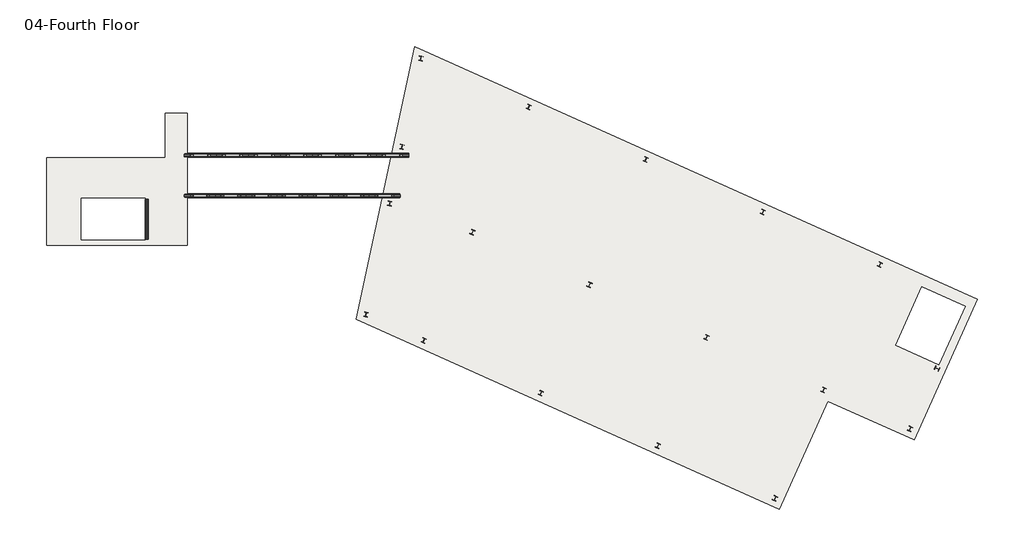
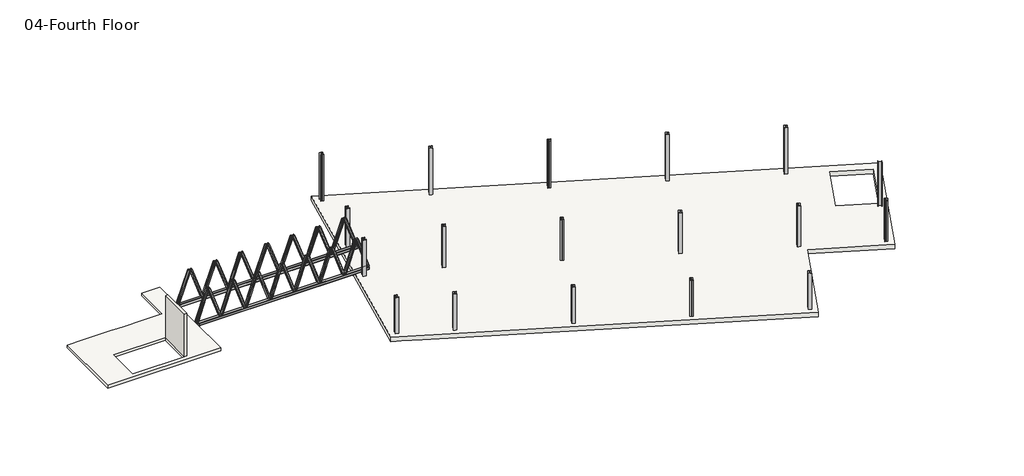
# One storey: 30 beams, 18 columns, 2 slabs, 1 wall.
"""IFC4 building model written with IfcOpenShell, lengths in millimetres."""

from ifc_helpers import new_model, si_unit, frame, origin, place, context, project, spatial, polyline, outline, extrude, faceted_brep, transform, mapped, element, save
from components import hss_square_hss6x6x1_2_76161288, hss_square_hss6x6x1_2_22740da5, hss_square_hss6x6x1_2_1b88db30, hss_square_hss6x6x1_2_b0b0a80a, hss_square_hss6x6x1_2_a7cad767, hss_square_hss6x6x1_2_71d29ca0, hss_square_hss8x8x3_8_a07c3f43, hss_square_hss8x8x3_8_c1e108ad, w_shapes_column_w10x33_a9fcfa0c, w_shapes_column_w10x33_dd564183, w_shapes_column_w10x33_143f3a9e, w_shapes_column_w10x33_68d9858e, w_shapes_column_w10x33_19826069, w_shapes_column_w10x33_0502d7ff, w_shapes_column_w10x33_47bedb91, w_shapes_column_w10x33_6cbc947e

model = new_model("IFC4")

# Units and contexts
model_context = context("Model", 3, world=origin())
ifc_project = project(units=[si_unit("LENGTHUNIT", "METRE", prefix="MILLI")], contexts=[model_context])

# Site, building, storey
site = spatial("IfcSite", under=ifc_project)
building = spatial("IfcBuilding", under=site)
storey = spatial("IfcBuildingStorey", under=building, Name="04-Fourth Floor", Elevation=13411.2)

# Beams
placement = place(None, origin())
hss_square_hss6x6x1_2_shape = hss_square_hss6x6x1_2_76161288(model_context)
element("IfcBeam", 1, ObjectType="HSS Square : HSS6X6X1/2", at=placement, inside=storey, context=model_context, shape_type="MappedRepresentation", body=[
    mapped(hss_square_hss6x6x1_2_shape, transform((18517.5886483, -7505.7, 14732.0), x_axis=(0.32576532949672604, 0.0, 0.9454506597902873), y_axis=(0.0, -1.0, 0.0), z_axis=(0.9454506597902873, 0.0, -0.32576532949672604))),
])
hss_square_hss6x6x1_2_2_shape = hss_square_hss6x6x1_2_22740da5(model_context)
element("IfcBeam", 2, ObjectType="HSS Square : HSS6X6X1/2", at=placement, inside=storey, context=model_context, shape_type="MappedRepresentation", body=[
    mapped(hss_square_hss6x6x1_2_2_shape, transform((19357.765945, -7505.7, 14732.0), x_axis=(0.32576532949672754, 0.0, -0.9454506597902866), y_axis=(0.0, -1.0, 0.0), z_axis=(-0.9454506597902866, 0.0, -0.32576532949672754))),
])
element("IfcBeam", 3, ObjectType="HSS Square : HSS6X6X1/2", at=placement, inside=storey, context=model_context, shape_type="MappedRepresentation", body=[
    mapped(hss_square_hss6x6x1_2_2_shape, transform((20197.9432416, -7505.7, 14732.0), x_axis=(0.3257653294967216, 0.0, 0.9454506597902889), y_axis=(0.0, -1.0, 0.0), z_axis=(0.9454506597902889, 0.0, -0.3257653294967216))),
])
element("IfcBeam", 4, ObjectType="HSS Square : HSS6X6X1/2", at=placement, inside=storey, context=model_context, shape_type="MappedRepresentation", body=[
    mapped(hss_square_hss6x6x1_2_2_shape, transform((28599.7162079, -7505.7, 14732.0), x_axis=(0.3257653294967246, 0.0, 0.9454506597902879), y_axis=(0.0, -1.0, 0.0), z_axis=(0.9454506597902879, 0.0, -0.3257653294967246))),
])
element("IfcBeam", 5, ObjectType="HSS Square : HSS6X6X1/2", at=placement, inside=storey, context=model_context, shape_type="MappedRepresentation", body=[
    mapped(hss_square_hss6x6x1_2_2_shape, transform((27759.5389113, -7505.7, 14732.0), x_axis=(0.32576532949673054, 0.0, -0.9454506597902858), y_axis=(0.0, -1.0, 0.0), z_axis=(-0.9454506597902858, 0.0, -0.32576532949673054))),
])
element("IfcBeam", 6, ObjectType="HSS Square : HSS6X6X1/2", at=placement, inside=storey, context=model_context, shape_type="MappedRepresentation", body=[
    mapped(hss_square_hss6x6x1_2_2_shape, transform((26919.3616147, -7505.7, 14732.0), x_axis=(0.32576532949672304, 0.0, 0.9454506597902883), y_axis=(0.0, -1.0, 0.0), z_axis=(0.9454506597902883, 0.0, -0.32576532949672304))),
])
element("IfcBeam", 7, ObjectType="HSS Square : HSS6X6X1/2", at=placement, inside=storey, context=model_context, shape_type="MappedRepresentation", body=[
    mapped(hss_square_hss6x6x1_2_2_shape, transform((26079.184318, -7505.7, 14732.0), x_axis=(0.32576532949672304, 0.0, -0.9454506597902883), y_axis=(0.0, -1.0, 0.0), z_axis=(-0.9454506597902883, 0.0, -0.32576532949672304))),
])
element("IfcBeam", 8, ObjectType="HSS Square : HSS6X6X1/2", at=placement, inside=storey, context=model_context, shape_type="MappedRepresentation", body=[
    mapped(hss_square_hss6x6x1_2_2_shape, transform((21038.1205382, -7505.7, 14732.0), x_axis=(0.3257653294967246, 0.0, -0.9454506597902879), y_axis=(0.0, -1.0, 0.0), z_axis=(-0.9454506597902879, 0.0, -0.3257653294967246))),
])
element("IfcBeam", 9, ObjectType="HSS Square : HSS6X6X1/2", at=placement, inside=storey, context=model_context, shape_type="MappedRepresentation", body=[
    mapped(hss_square_hss6x6x1_2_2_shape, transform((21878.2978349, -7505.7, 14732.0), x_axis=(0.32576532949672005, 0.0, 0.9454506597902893), y_axis=(0.0, -1.0, 0.0), z_axis=(0.9454506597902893, 0.0, -0.32576532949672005))),
])
element("IfcBeam", 10, ObjectType="HSS Square : HSS6X6X1/2", at=placement, inside=storey, context=model_context, shape_type="MappedRepresentation", body=[
    mapped(hss_square_hss6x6x1_2_2_shape, transform((22718.4751315, -7505.7, 14732.0), x_axis=(0.3257653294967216, 0.0, -0.9454506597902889), y_axis=(0.0, -1.0, 0.0), z_axis=(-0.9454506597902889, 0.0, -0.3257653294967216))),
])
element("IfcBeam", 11, ObjectType="HSS Square : HSS6X6X1/2", at=placement, inside=storey, context=model_context, shape_type="MappedRepresentation", body=[
    mapped(hss_square_hss6x6x1_2_2_shape, transform((23558.6524281, -7505.7, 14732.0), x_axis=(0.325765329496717, 0.0, 0.9454506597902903), y_axis=(0.0, -1.0, 0.0), z_axis=(0.9454506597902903, 0.0, -0.325765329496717))),
])
element("IfcBeam", 12, ObjectType="HSS Square : HSS6X6X1/2", at=placement, inside=storey, context=model_context, shape_type="MappedRepresentation", body=[
    mapped(hss_square_hss6x6x1_2_2_shape, transform((24398.8297248, -7505.7, 14732.0), x_axis=(0.32576532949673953, 0.0, -0.9454506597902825), y_axis=(0.0, -1.0, 0.0), z_axis=(-0.9454506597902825, 0.0, -0.32576532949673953))),
])
element("IfcBeam", 13, ObjectType="HSS Square : HSS6X6X1/2", at=placement, inside=storey, context=model_context, shape_type="MappedRepresentation", body=[
    mapped(hss_square_hss6x6x1_2_2_shape, transform((25239.0070214, -7505.7, 14732.0), x_axis=(0.32576532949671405, 0.0, 0.9454506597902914), y_axis=(0.0, -1.0, 0.0), z_axis=(0.9454506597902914, 0.0, -0.32576532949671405))),
])
hss_square_hss6x6x1_2_3_shape = hss_square_hss6x6x1_2_1b88db30(model_context)
element("IfcBeam", 14, ObjectType="HSS Square : HSS6X6X1/2", at=placement, inside=storey, context=model_context, shape_type="MappedRepresentation", body=[
    mapped(hss_square_hss6x6x1_2_3_shape, transform((29439.8935046, -7505.7, 14732.0), x_axis=(0.32576532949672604, 0.0, -0.9454506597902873), y_axis=(0.0, -1.0, 0.0), z_axis=(-0.9454506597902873, 0.0, -0.32576532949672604))),
])
hss_square_hss6x6x1_2_4_shape = hss_square_hss6x6x1_2_b0b0a80a(model_context)
element("IfcBeam", 15, ObjectType="HSS Square : HSS6X6X1/2", at=placement, inside=storey, context=model_context, shape_type="MappedRepresentation", body=[
    mapped(hss_square_hss6x6x1_2_4_shape, transform((18534.500383, -5295.9, 14732.0), x_axis=(0.3374125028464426, 0.0, 0.9413568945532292), y_axis=(0.0, -1.0, 0.0), z_axis=(0.9413568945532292, 0.0, -0.3374125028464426))),
])
hss_square_hss6x6x1_2_5_shape = hss_square_hss6x6x1_2_a7cad767(model_context)
element("IfcBeam", 16, ObjectType="HSS Square : HSS6X6X1/2", at=placement, inside=storey, context=model_context, shape_type="MappedRepresentation", body=[
    mapped(hss_square_hss6x6x1_2_5_shape, transform((19408.501149, -5295.9, 14732.0), x_axis=(0.3374125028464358, 0.0, -0.9413568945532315), y_axis=(0.0, -1.0, 0.0), z_axis=(-0.9413568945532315, 0.0, -0.3374125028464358))),
])
element("IfcBeam", 17, ObjectType="HSS Square : HSS6X6X1/2", at=placement, inside=storey, context=model_context, shape_type="MappedRepresentation", body=[
    mapped(hss_square_hss6x6x1_2_5_shape, transform((20282.5019151, -5295.9, 14732.0), x_axis=(0.3374125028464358, 0.0, 0.9413568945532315), y_axis=(0.0, -1.0, 0.0), z_axis=(0.9413568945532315, 0.0, -0.3374125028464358))),
])
element("IfcBeam", 18, ObjectType="HSS Square : HSS6X6X1/2", at=placement, inside=storey, context=model_context, shape_type="MappedRepresentation", body=[
    mapped(hss_square_hss6x6x1_2_5_shape, transform((29022.5095753, -5295.9, 14732.0), x_axis=(0.3374125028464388, 0.0, 0.9413568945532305), y_axis=(0.0, -1.0, 0.0), z_axis=(0.9413568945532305, 0.0, -0.3374125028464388))),
])
element("IfcBeam", 19, ObjectType="HSS Square : HSS6X6X1/2", at=placement, inside=storey, context=model_context, shape_type="MappedRepresentation", body=[
    mapped(hss_square_hss6x6x1_2_5_shape, transform((28148.5088093, -5295.9, 14732.0), x_axis=(0.33741250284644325, 0.0, -0.9413568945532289), y_axis=(0.0, -1.0, 0.0), z_axis=(-0.9413568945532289, 0.0, -0.33741250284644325))),
])
element("IfcBeam", 20, ObjectType="HSS Square : HSS6X6X1/2", at=placement, inside=storey, context=model_context, shape_type="MappedRepresentation", body=[
    mapped(hss_square_hss6x6x1_2_5_shape, transform((27274.5080432, -5295.9, 14732.0), x_axis=(0.3374125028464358, 0.0, 0.9413568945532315), y_axis=(0.0, -1.0, 0.0), z_axis=(0.9413568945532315, 0.0, -0.3374125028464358))),
])
element("IfcBeam", 21, ObjectType="HSS Square : HSS6X6X1/2", at=placement, inside=storey, context=model_context, shape_type="MappedRepresentation", body=[
    mapped(hss_square_hss6x6x1_2_5_shape, transform((26400.5072772, -5295.9, 14732.0), x_axis=(0.3374125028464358, 0.0, -0.9413568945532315), y_axis=(0.0, -1.0, 0.0), z_axis=(-0.9413568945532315, 0.0, -0.3374125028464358))),
])
element("IfcBeam", 22, ObjectType="HSS Square : HSS6X6X1/2", at=placement, inside=storey, context=model_context, shape_type="MappedRepresentation", body=[
    mapped(hss_square_hss6x6x1_2_5_shape, transform((21156.5026811, -5295.9, 14732.0), x_axis=(0.3374125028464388, 0.0, -0.9413568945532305), y_axis=(0.0, -1.0, 0.0), z_axis=(-0.9413568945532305, 0.0, -0.3374125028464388))),
])
element("IfcBeam", 23, ObjectType="HSS Square : HSS6X6X1/2", at=placement, inside=storey, context=model_context, shape_type="MappedRepresentation", body=[
    mapped(hss_square_hss6x6x1_2_5_shape, transform((22030.5034471, -5295.9, 14732.0), x_axis=(0.3374125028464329, 0.0, 0.9413568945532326), y_axis=(0.0, -1.0, 0.0), z_axis=(0.9413568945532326, 0.0, -0.3374125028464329))),
])
element("IfcBeam", 24, ObjectType="HSS Square : HSS6X6X1/2", at=placement, inside=storey, context=model_context, shape_type="MappedRepresentation", body=[
    mapped(hss_square_hss6x6x1_2_5_shape, transform((22904.5042131, -5295.9, 14732.0), x_axis=(0.3374125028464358, 0.0, -0.9413568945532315), y_axis=(0.0, -1.0, 0.0), z_axis=(-0.9413568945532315, 0.0, -0.3374125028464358))),
])
element("IfcBeam", 25, ObjectType="HSS Square : HSS6X6X1/2", at=placement, inside=storey, context=model_context, shape_type="MappedRepresentation", body=[
    mapped(hss_square_hss6x6x1_2_5_shape, transform((23778.5049792, -5295.9, 14732.0), x_axis=(0.33741250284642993, 0.0, 0.9413568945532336), y_axis=(0.0, -1.0, 0.0), z_axis=(0.9413568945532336, 0.0, -0.33741250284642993))),
])
element("IfcBeam", 26, ObjectType="HSS Square : HSS6X6X1/2", at=placement, inside=storey, context=model_context, shape_type="MappedRepresentation", body=[
    mapped(hss_square_hss6x6x1_2_5_shape, transform((24652.5057452, -5295.9, 14732.0), x_axis=(0.33741250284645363, 0.0, -0.9413568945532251), y_axis=(0.0, -1.0, 0.0), z_axis=(-0.9413568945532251, 0.0, -0.33741250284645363))),
])
element("IfcBeam", 27, ObjectType="HSS Square : HSS6X6X1/2", at=placement, inside=storey, context=model_context, shape_type="MappedRepresentation", body=[
    mapped(hss_square_hss6x6x1_2_5_shape, transform((25526.5065112, -5295.9, 14732.0), x_axis=(0.337412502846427, 0.0, 0.9413568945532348), y_axis=(0.0, -1.0, 0.0), z_axis=(0.9413568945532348, 0.0, -0.337412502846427))),
])
hss_square_hss6x6x1_2_6_shape = hss_square_hss6x6x1_2_71d29ca0(model_context)
element("IfcBeam", 28, ObjectType="HSS Square : HSS6X6X1/2", at=placement, inside=storey, context=model_context, shape_type="MappedRepresentation", body=[
    mapped(hss_square_hss6x6x1_2_6_shape, transform((29896.5103413, -5295.9, 14732.0), x_axis=(0.3374125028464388, 0.0, -0.9413568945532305), y_axis=(0.0, -1.0, 0.0), z_axis=(-0.9413568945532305, 0.0, -0.3374125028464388))),
])
hss_square_hss8x8x3_8_shape = hss_square_hss8x8x3_8_a07c3f43(model_context)
element("IfcBeam", 29, ObjectType="HSS Square : HSS8X8X3/8", at=placement, inside=storey, context=model_context, shape_type="MappedRepresentation", body=[
    mapped(hss_square_hss8x8x3_8_shape, transform((23978.7410764, -7505.7, 13512.8), x_axis=(1.0, 0.0, 0.0), y_axis=(0.0, 1.0, 0.0), z_axis=(0.0, 0.0, 1.0))),
])
hss_square_hss8x8x3_8_2_shape = hss_square_hss8x8x3_8_c1e108ad(model_context)
element("IfcBeam", 30, ObjectType="HSS Square : HSS8X8X3/8", at=placement, inside=storey, context=model_context, shape_type="MappedRepresentation", body=[
    mapped(hss_square_hss8x8x3_8_2_shape, transform((24215.5053622, -5295.9, 13512.8), x_axis=(1.0, 0.0, 0.0), y_axis=(0.0, 1.0, 0.0), z_axis=(0.0, 0.0, 1.0))),
])

# Columns
w_shapes_column_w10x33_shape = w_shapes_column_w10x33_a9fcfa0c(model_context)
element("IfcColumn", 31, ObjectType="W Shapes-Column : W10X33", at=placement, inside=storey, context=model_context, shape_type="MappedRepresentation", body=[
    mapped(w_shapes_column_w10x33_shape, transform((53006.5219449, -18113.1117073, 0.0), x_axis=(-0.9121951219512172, 0.4097560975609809, 0.0), y_axis=(-0.4097560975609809, -0.9121951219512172, 0.0), z_axis=(0.0, 0.0, 1.0))),
])
element("IfcColumn", 32, ObjectType="W Shapes-Column : W10X33", at=placement, inside=storey, context=model_context, shape_type="MappedRepresentation", body=[
    mapped(w_shapes_column_w10x33_shape, transform((57733.1521888, -20236.3039024, 0.0), x_axis=(-0.9121951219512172, 0.4097560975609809, 0.0), y_axis=(-0.4097560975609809, -0.9121951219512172, 0.0), z_axis=(0.0, 0.0, 1.0))),
])
element("IfcColumn", 33, ObjectType="W Shapes-Column : W10X33", at=placement, inside=storey, context=model_context, shape_type="MappedRepresentation", body=[
    mapped(w_shapes_column_w10x33_shape, transform((46611.669262, -15240.557561, 0.0), x_axis=(-0.9121951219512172, 0.4097560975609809, 0.0), y_axis=(-0.4097560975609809, -0.9121951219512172, 0.0), z_axis=(0.0, 0.0, 1.0))),
])
element("IfcColumn", 34, ObjectType="W Shapes-Column : W10X33", at=placement, inside=storey, context=model_context, shape_type="MappedRepresentation", body=[
    mapped(w_shapes_column_w10x33_shape, transform((40216.816579, -12368.0034146, 0.0), x_axis=(-0.9121951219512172, 0.4097560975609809, 0.0), y_axis=(-0.4097560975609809, -0.9121951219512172, 0.0), z_axis=(0.0, 0.0, 1.0))),
])
element("IfcColumn", 35, ObjectType="W Shapes-Column : W10X33", at=placement, inside=storey, context=model_context, shape_type="MappedRepresentation", body=[
    mapped(w_shapes_column_w10x33_shape, transform((33821.9638961, -9495.4492683, 0.0), x_axis=(-0.9121951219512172, 0.4097560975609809, 0.0), y_axis=(-0.4097560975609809, -0.9121951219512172, 0.0), z_axis=(0.0, 0.0, 1.0))),
])
w_shapes_column_w10x33_2_shape = w_shapes_column_w10x33_dd564183(model_context)
element("IfcColumn", 36, ObjectType="W Shapes-Column : W10X33", at=placement, inside=storey, context=model_context, shape_type="MappedRepresentation", body=[
    mapped(w_shapes_column_w10x33_2_shape, transform((36897.4702376, -2648.7863415, 0.0), x_axis=(-0.9121951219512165, 0.4097560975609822, 0.0), y_axis=(-0.4097560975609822, -0.9121951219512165, 0.0), z_axis=(0.0, 0.0, 1.0))),
])
element("IfcColumn", 37, ObjectType="W Shapes-Column : W10X33", at=placement, inside=storey, context=model_context, shape_type="MappedRepresentation", body=[
    mapped(w_shapes_column_w10x33_2_shape, transform((43292.3229205, -5521.3404878, 0.0), x_axis=(-0.9121951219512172, 0.40975609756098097, 0.0), y_axis=(-0.40975609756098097, -0.9121951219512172, 0.0), z_axis=(0.0, 0.0, 1.0))),
])
element("IfcColumn", 38, ObjectType="W Shapes-Column : W10X33", at=placement, inside=storey, context=model_context, shape_type="MappedRepresentation", body=[
    mapped(w_shapes_column_w10x33_2_shape, transform((49687.1756034, -8393.8946341, 0.0), x_axis=(-0.9121951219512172, 0.4097560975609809, 0.0), y_axis=(-0.4097560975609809, -0.9121951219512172, 0.0), z_axis=(0.0, 0.0, 1.0))),
])
element("IfcColumn", 39, ObjectType="W Shapes-Column : W10X33", at=placement, inside=storey, context=model_context, shape_type="MappedRepresentation", body=[
    mapped(w_shapes_column_w10x33_2_shape, transform((56082.0282864, -11266.4487805, 0.0), x_axis=(-0.9121951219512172, 0.4097560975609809, 0.0), y_axis=(-0.4097560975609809, -0.9121951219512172, 0.0), z_axis=(0.0, 0.0, 1.0))),
])
w_shapes_column_w10x33_3_shape = w_shapes_column_w10x33_143f3a9e(model_context)
element("IfcColumn", 40, ObjectType="W Shapes-Column : W10X33", at=placement, inside=storey, context=model_context, shape_type="MappedRepresentation", body=[
    mapped(w_shapes_column_w10x33_3_shape, transform((31162.7697498, -15415.3219512, 0.0), x_axis=(-0.9121951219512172, 0.409756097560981, 0.0), y_axis=(-0.409756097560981, -0.9121951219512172, 0.0), z_axis=(0.0, 0.0, 1.0))),
])
element("IfcColumn", 41, ObjectType="W Shapes-Column : W10X33", at=placement, inside=storey, context=model_context, shape_type="MappedRepresentation", body=[
    mapped(w_shapes_column_w10x33_3_shape, transform((37557.6224327, -18287.8760976, 0.0), x_axis=(-0.9121951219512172, 0.4097560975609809, 0.0), y_axis=(-0.4097560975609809, -0.9121951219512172, 0.0), z_axis=(0.0, 0.0, 1.0))),
])
element("IfcColumn", 42, ObjectType="W Shapes-Column : W10X33", at=placement, inside=storey, context=model_context, shape_type="MappedRepresentation", body=[
    mapped(w_shapes_column_w10x33_3_shape, transform((43952.4751156, -21160.4302439, 0.0), x_axis=(-0.9121951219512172, 0.4097560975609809, 0.0), y_axis=(-0.4097560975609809, -0.9121951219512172, 0.0), z_axis=(0.0, 0.0, 1.0))),
])
element("IfcColumn", 43, ObjectType="W Shapes-Column : W10X33", at=placement, inside=storey, context=model_context, shape_type="MappedRepresentation", body=[
    mapped(w_shapes_column_w10x33_3_shape, transform((50347.3277985, -24032.9843902, 0.0), x_axis=(-0.9121951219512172, 0.4097560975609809, 0.0), y_axis=(-0.4097560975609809, -0.9121951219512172, 0.0), z_axis=(0.0, 0.0, 1.0))),
])
w_shapes_column_w10x33_4_shape = w_shapes_column_w10x33_68d9858e(model_context)
element("IfcColumn", 44, ObjectType="W Shapes-Column : W10X33", at=placement, inside=storey, context=model_context, shape_type="MappedRepresentation", body=[
    mapped(w_shapes_column_w10x33_4_shape, transform((28001.753025, -13995.4, 0.0), x_axis=(0.9778024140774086, -0.2095290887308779, 0.0), y_axis=(0.2095290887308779, 0.9778024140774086, 0.0), z_axis=(0.0, 0.0, 1.0))),
])
w_shapes_column_w10x33_5_shape = w_shapes_column_w10x33_19826069(model_context)
element("IfcColumn", 45, ObjectType="W Shapes-Column : W10X33", at=placement, inside=storey, context=model_context, shape_type="MappedRepresentation", body=[
    mapped(w_shapes_column_w10x33_5_shape, transform((31000.7673107, 0.0, 0.0), x_axis=(0.9778024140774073, -0.20952908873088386, 0.0), y_axis=(0.20952908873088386, 0.9778024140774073, 0.0), z_axis=(0.0, 0.0, 1.0))),
])
w_shapes_column_w10x33_6_shape = w_shapes_column_w10x33_0502d7ff(model_context)
element("IfcColumn", 46, ObjectType="W Shapes-Column : W10X33", at=placement, inside=storey, context=model_context, shape_type="MappedRepresentation", body=[
    mapped(w_shapes_column_w10x33_6_shape, transform((59211.6282063, -16944.934673, 0.0), x_axis=(-0.4097560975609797, -0.9121951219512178, 0.0), y_axis=(0.9121951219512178, -0.4097560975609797, 0.0), z_axis=(0.0, 0.0, 1.0))),
])
w_shapes_column_w10x33_7_shape = w_shapes_column_w10x33_47bedb91(model_context)
element("IfcColumn", 47, ObjectType="W Shapes-Column : W10X33", at=placement, inside=storey, context=model_context, shape_type="MappedRepresentation", body=[
    mapped(w_shapes_column_w10x33_7_shape, transform((29301.9671438, -7927.7341122, 0.0), x_axis=(0.9778024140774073, -0.20952908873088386, 0.0), y_axis=(0.20952908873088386, 0.9778024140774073, 0.0), z_axis=(0.0, 0.0, 1.0))),
])
w_shapes_column_w10x33_8_shape = w_shapes_column_w10x33_6cbc947e(model_context)
element("IfcColumn", 48, ObjectType="W Shapes-Column : W10X33", at=placement, inside=storey, context=model_context, shape_type="MappedRepresentation", body=[
    mapped(w_shapes_column_w10x33_8_shape, transform((29964.887162, -4834.1073607, 0.0), x_axis=(0.9778024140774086, -0.20952908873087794, 0.0), y_axis=(0.20952908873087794, 0.9778024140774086, 0.0), z_axis=(0.0, 0.0, 1.0))),
])

# Slabs
element("IfcSlab", 49, ObjectType="RC Slab 12\"", at=placement, inside=storey, context=model_context, shape_type="Brep", body=[
    faceted_brep([(61413.0546278, -13159.9258537, 13106.4), (57962.8673107, -20840.7, 13106.4), (53236.2370668, -18717.5078049, 13106.4), (50577.0429205, -24637.3804878, 13106.4), (29168.1882864, -15020.5687805, 13106.4), (28045.956063, -14516.4644662, 13106.4), (27761.6071299, -14388.7355338, 13106.4), (27477.2581969, -14261.0066013, 13106.4), (30672.2153397, 648.7933987, 13106.4), (30956.5642728, 521.0644662, 13106.4), (31240.9132058, 393.3355338, 13106.4), (32422.724802, -137.5317073, 13106.4), (59309.9346278, -16726.0858537, 13106.4), (60746.211701, -13528.6595122, 13106.4), (58382.896579, -12467.0634146, 13106.4), (56946.6195059, -15664.4897561, 13106.4), (57962.8673107, -20840.7, 13411.2), (61413.0546278, -13159.9258537, 13411.2), (30672.2153397, 648.7933987, 13411.2), (27477.2581969, -14261.0066013, 13411.2), (50577.0429205, -24637.3804878, 13411.2), (53236.2370668, -18717.5078049, 13411.2), (60746.211701, -13528.6595122, 13411.2), (59309.9346278, -16726.0858537, 13411.2), (56946.6195059, -15664.4897561, 13411.2), (58382.896579, -12467.0634146, 13411.2)], [[[0, 1, 2, 3, 4, 5, 6, 7, 8, 9, 10, 11], [12, 13, 14, 15]], [[16, 17, 18, 19, 20, 21], [22, 23, 24, 25]], [[1, 0, 17, 16]], [[2, 1, 16, 21]], [[3, 2, 21, 20]], [[7, 6, 5, 4, 3, 20, 19]], [[8, 7, 19, 18]], [[0, 11, 10, 9, 8, 18, 17]], [[12, 23, 22, 13]], [[13, 22, 25, 14]], [[14, 25, 24, 15]], [[23, 12, 15, 24]]]),
])
element("IfcSlab", 50, ObjectType="RC Slab 8\"", at=placement, inside=storey, context=model_context, shape_type="Brep", body=[
    faceted_brep([(18249.9, -2984.5, 13208.0), (18249.9, -3289.3, 13208.0), (18249.9, -9893.3, 13208.0), (18249.9, -10198.1, 13208.0), (10553.7, -10198.1, 13208.0), (10553.7, -9893.3, 13208.0), (10553.7, -5422.9, 13208.0), (10858.5, -5422.9, 13208.0), (17030.7, -5422.9, 13208.0), (17030.7, -5118.1, 13208.0), (17030.7, -3289.3, 13208.0), (17030.7, -2984.5, 13208.0), (15951.2, -7633.3081651, 13208.0), (12446.0, -7633.3081651, 13208.0), (12446.0, -7683.5, 13208.0), (12446.0, -9893.3, 13208.0), (15951.2, -9893.3, 13208.0), (15951.2, -7683.5, 13208.0), (18249.9, -10198.1, 13411.2), (18249.9, -9893.3, 13411.2), (18249.9, -7378.7, 13411.2), (18249.9, -5422.9, 13411.2), (18249.9, -3289.3, 13411.2), (18249.9, -2984.5, 13411.2), (17030.7, -2984.5, 13411.2), (17030.7, -3289.3, 13411.2), (17030.7, -5118.1, 13411.2), (17030.7, -5422.9, 13411.2), (16522.7, -5422.9, 13411.2), (15608.3, -5422.9, 13411.2), (14389.1, -5422.9, 13411.2), (13474.7, -5422.9, 13411.2), (12242.8, -5422.9, 13411.2), (11328.4, -5422.9, 13411.2), (10858.5, -5422.9, 13411.2), (10553.7, -5422.9, 13411.2), (10553.7, -9893.3, 13411.2), (10553.7, -10198.1, 13411.2), (12446.0, -7633.3081651, 13411.2), (15951.2, -7633.3081651, 13411.2), (15951.2, -7683.5, 13411.2), (15951.2, -9893.3, 13411.2), (12446.0, -9893.3, 13411.2), (12446.0, -8757.2581651, 13411.2), (12446.0, -7690.4581651, 13411.2), (12446.0, -7683.5, 13411.2)], [[[0, 1, 2, 3, 4, 5, 6, 7, 8, 9, 10, 11], [12, 13, 14, 15, 16, 17]], [[18, 19, 20, 21, 22, 23, 24, 25, 26, 27, 28, 29, 30, 31, 32, 33, 34, 35, 36, 37], [38, 39, 40, 41, 42, 43, 44, 45]], [[3, 2, 1, 0, 23, 22, 21, 20, 19, 18]], [[4, 3, 18, 37]], [[4, 37, 36, 35, 6, 5]], [[23, 0, 11, 24]], [[27, 8, 7, 6, 35, 34, 33, 32, 31, 30, 29, 28]], [[8, 27, 26, 25, 24, 11, 10, 9]], [[12, 39, 38, 13]], [[13, 38, 45, 44, 43, 42, 15, 14]], [[15, 42, 41, 16]], [[39, 12, 17, 16, 41, 40]]]),
])

# Wall
element("IfcWall", 51, ObjectType="6\" Blockwork with render", at=placement, inside=storey, context=model_context, shape_type="SweptSolid", body=[
    extrude(outline(polyline([(16103.6, -7683.5), (16103.6, -9893.3), (15951.2, -9893.3), (15951.2, -7683.5), (16103.6, -7683.5)])), frame((0.0, 0.0, 13411.2), z_axis=(0.0, 0.0, 1.0), x_axis=(1.0, 0.0, 0.0)), (0.0, 0.0, 1.0), 3048.0),
])

save(model, "model.ifc")
